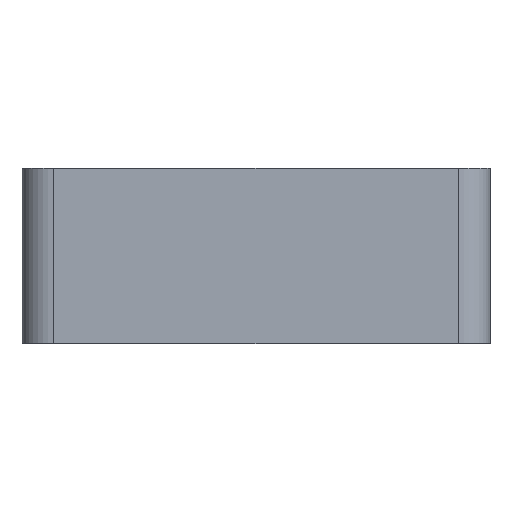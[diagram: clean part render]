
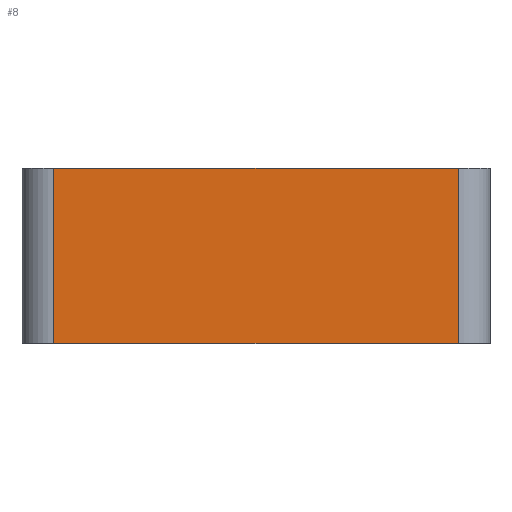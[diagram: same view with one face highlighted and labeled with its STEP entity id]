
A CAD part, top view. The second image highlights one B-rep face of the part: STEP entity #8.
In plain terms, the highlighted planar face has unit normal (0, 0, 1).
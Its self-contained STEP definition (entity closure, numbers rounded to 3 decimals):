
#8 = ADVANCED_FACE ( 'NONE', ( #2431 ), #3642, .F. ) ;
#79 = VERTEX_POINT ( 'NONE', #3158 ) ;
#155 = EDGE_CURVE ( 'NONE', #1895, #979, #1743, .T. ) ;
#307 = ORIENTED_EDGE ( 'NONE', *, *, #155, .F. ) ;
#365 = EDGE_CURVE ( 'NONE', #79, #979, #2571, .T. ) ;
#640 = VECTOR ( 'NONE', #2354, 1000. ) ;
#659 = EDGE_CURVE ( 'NONE', #1895, #2694, #1339, .T. ) ;
#715 = VECTOR ( 'NONE', #1540, 1000. ) ;
#979 = VERTEX_POINT ( 'NONE', #1746 ) ;
#1103 = DIRECTION ( 'NONE',  ( -1., 0., 0. ) ) ;
#1163 = CARTESIAN_POINT ( 'NONE',  ( -29.4, 11., 22.3 ) ) ;
#1216 = AXIS2_PLACEMENT_3D ( 'NONE', #2240, #3503, #1103 ) ;
#1252 = CARTESIAN_POINT ( 'NONE',  ( -25.4, 11., 22.3 ) ) ;
#1300 = LINE ( 'NONE', #2497, #3430 ) ;
#1339 = LINE ( 'NONE', #1252, #715 ) ;
#1481 = ORIENTED_EDGE ( 'NONE', *, *, #365, .T. ) ;
#1540 = DIRECTION ( 'NONE',  ( 0., -1., 0. ) ) ;
#1581 = VECTOR ( 'NONE', #2000, 1000. ) ;
#1623 = DIRECTION ( 'NONE',  ( 1., 0., 0. ) ) ;
#1743 = LINE ( 'NONE', #1163, #640 ) ;
#1746 = CARTESIAN_POINT ( 'NONE',  ( 25.4, 11., 22.3 ) ) ;
#1895 = VERTEX_POINT ( 'NONE', #3862 ) ;
#2000 = DIRECTION ( 'NONE',  ( 0., 1., 0. ) ) ;
#2240 = CARTESIAN_POINT ( 'NONE',  ( -29.4, 11., 22.3 ) ) ;
#2354 = DIRECTION ( 'NONE',  ( 1., 0., 0. ) ) ;
#2431 = FACE_OUTER_BOUND ( 'NONE', #3349, .T. ) ;
#2497 = CARTESIAN_POINT ( 'NONE',  ( -29.4, -11., 22.3 ) ) ;
#2568 = ORIENTED_EDGE ( 'NONE', *, *, #659, .T. ) ;
#2571 = LINE ( 'NONE', #3180, #1581 ) ;
#2694 = VERTEX_POINT ( 'NONE', #2799 ) ;
#2799 = CARTESIAN_POINT ( 'NONE',  ( -25.4, -11., 22.3 ) ) ;
#3158 = CARTESIAN_POINT ( 'NONE',  ( 25.4, -11., 22.3 ) ) ;
#3180 = CARTESIAN_POINT ( 'NONE',  ( 25.4, 11., 22.3 ) ) ;
#3349 = EDGE_LOOP ( 'NONE', ( #3515, #1481, #307, #2568 ) ) ;
#3430 = VECTOR ( 'NONE', #1623, 1000. ) ;
#3503 = DIRECTION ( 'NONE',  ( 0., 0., -1. ) ) ;
#3515 = ORIENTED_EDGE ( 'NONE', *, *, #3881, .T. ) ;
#3642 = PLANE ( 'NONE',  #1216 ) ;
#3862 = CARTESIAN_POINT ( 'NONE',  ( -25.4, 11., 22.3 ) ) ;
#3881 = EDGE_CURVE ( 'NONE', #2694, #79, #1300, .T. ) ;
